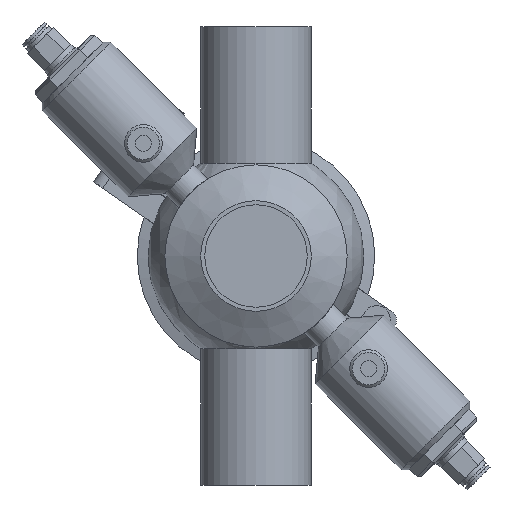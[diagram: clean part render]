
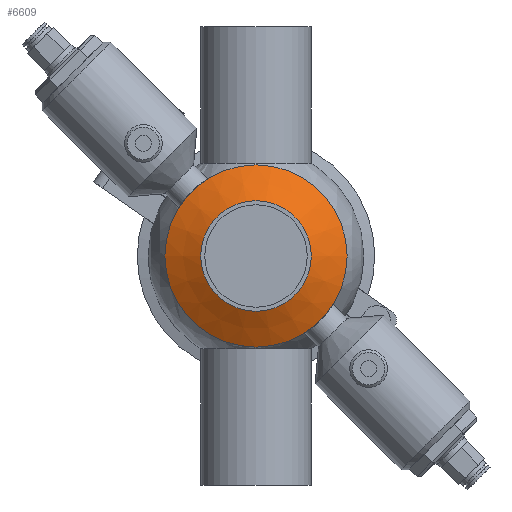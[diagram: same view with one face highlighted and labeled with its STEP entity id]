
A CAD part, front view. The second image highlights one B-rep face of the part: STEP entity #6609.
In plain terms, the highlighted conical face has half-angle 60 degrees and reference radius 33.75 mm.
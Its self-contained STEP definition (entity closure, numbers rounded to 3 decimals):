
#148 = ORIENTED_EDGE ( 'NONE', *, *, #8352, .T. ) ;
#175 = CARTESIAN_POINT ( 'NONE',  ( 0., -49.65, 0. ) ) ;
#428 = CIRCLE ( 'NONE', #13992, 33.75 ) ;
#2252 = CARTESIAN_POINT ( 'NONE',  ( 0., -49.65, 20.5 ) ) ;
#3088 = EDGE_CURVE ( 'NONE', #18373, #18373, #428, .T. ) ;
#4844 = FACE_OUTER_BOUND ( 'NONE', #22117, .T. ) ;
#5862 = DIRECTION ( 'NONE',  ( 0., 0., 1. ) ) ;
#5933 = CARTESIAN_POINT ( 'NONE',  ( 0., -42., 33.75 ) ) ;
#6609 = ADVANCED_FACE ( 'NONE', ( #8163, #4844 ), #22619, .T. ) ;
#7043 = DIRECTION ( 'NONE',  ( 0., 0., 1. ) ) ;
#7340 = CARTESIAN_POINT ( 'NONE',  ( 0., -42., 0. ) ) ;
#8163 = FACE_BOUND ( 'NONE', #21739, .T. ) ;
#8352 = EDGE_CURVE ( 'NONE', #9569, #9569, #18482, .T. ) ;
#9569 = VERTEX_POINT ( 'NONE', #2252 ) ;
#9850 = ORIENTED_EDGE ( 'NONE', *, *, #3088, .F. ) ;
#11824 = CARTESIAN_POINT ( 'NONE',  ( 0., -42., 0. ) ) ;
#13992 = AXIS2_PLACEMENT_3D ( 'NONE', #7340, #19685, #5862 ) ;
#15134 = DIRECTION ( 'NONE',  ( 0., 1., 0. ) ) ;
#18373 = VERTEX_POINT ( 'NONE', #5933 ) ;
#18482 = CIRCLE ( 'NONE', #20345, 20.5 ) ;
#19604 = DIRECTION ( 'NONE',  ( 0., 1., 0. ) ) ;
#19685 = DIRECTION ( 'NONE',  ( 0., 1., 0. ) ) ;
#20345 = AXIS2_PLACEMENT_3D ( 'NONE', #175, #19604, #7043 ) ;
#21167 = AXIS2_PLACEMENT_3D ( 'NONE', #11824, #15134, #22110 ) ;
#21739 = EDGE_LOOP ( 'NONE', ( #148 ) ) ;
#22110 = DIRECTION ( 'NONE',  ( 0., 0., 1. ) ) ;
#22117 = EDGE_LOOP ( 'NONE', ( #9850 ) ) ;
#22619 = CONICAL_SURFACE ( 'NONE', #21167, 33.75, 1.047 ) ;
